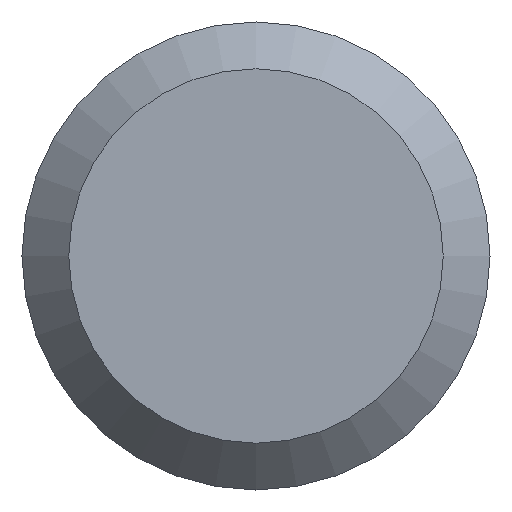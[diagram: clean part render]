
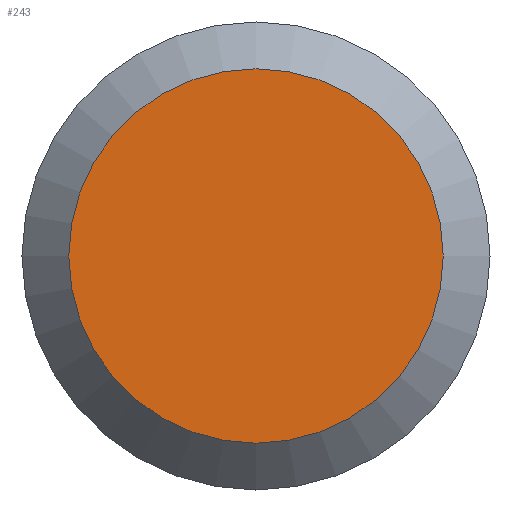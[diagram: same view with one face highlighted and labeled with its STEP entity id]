
A CAD part, left-side view. The second image highlights one B-rep face of the part: STEP entity #243.
In plain terms, the highlighted planar face has unit normal (-1, 0, 0).
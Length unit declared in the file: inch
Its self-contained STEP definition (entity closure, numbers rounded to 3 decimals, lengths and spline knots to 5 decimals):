
#25 = VERTEX_POINT ( 'NONE', #153 ) ;
#47 = AXIS2_PLACEMENT_3D ( 'NONE', #48, #83, #82 ) ;
#48 = CARTESIAN_POINT ( 'NONE',  ( 0., 0.119, 0. ) ) ;
#82 = DIRECTION ( 'NONE',  ( 0., 0., -1. ) ) ;
#83 = DIRECTION ( 'NONE',  ( 1., 0., 0. ) ) ;
#97 = CIRCLE ( 'NONE', #107, 0.0952 ) ;
#107 = AXIS2_PLACEMENT_3D ( 'NONE', #215, #226, #227 ) ;
#114 = EDGE_CURVE ( 'NONE', #25, #25, #97, .T. ) ;
#129 = FACE_OUTER_BOUND ( 'NONE', #180, .T. ) ;
#153 = CARTESIAN_POINT ( 'NONE',  ( 0., 0., -0.0952 ) ) ;
#180 = EDGE_LOOP ( 'NONE', ( #236 ) ) ;
#215 = CARTESIAN_POINT ( 'NONE',  ( 0., 0., 0. ) ) ;
#226 = DIRECTION ( 'NONE',  ( -1., 0., 0. ) ) ;
#227 = DIRECTION ( 'NONE',  ( 0., 0., -1. ) ) ;
#236 = ORIENTED_EDGE ( 'NONE', *, *, #114, .T. ) ;
#241 = PLANE ( 'NONE',  #47 ) ;
#243 = ADVANCED_FACE ( 'NONE', ( #129 ), #241, .F. ) ;
